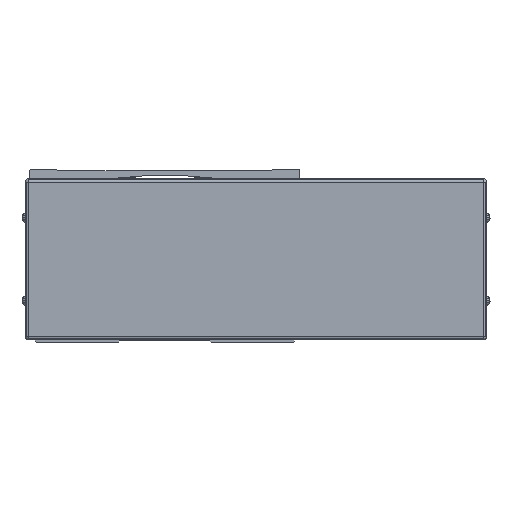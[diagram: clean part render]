
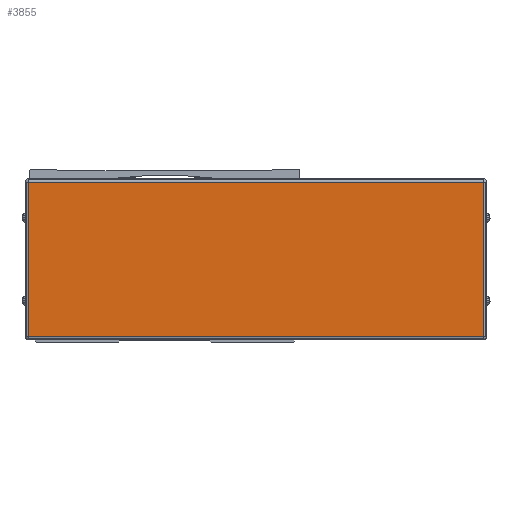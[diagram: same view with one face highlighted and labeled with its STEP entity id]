
A CAD part, front view. The second image highlights one B-rep face of the part: STEP entity #3855.
In plain terms, the highlighted planar face has unit normal (0, -1, 0).
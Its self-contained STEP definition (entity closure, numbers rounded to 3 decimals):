
#3855=ADVANCED_FACE('',(#8716),#8717,.T.);
#8716=FACE_OUTER_BOUND('',#15835,.T.);
#8717=PLANE('',#15836);
#15835=EDGE_LOOP('',(#28252,#28253,#28254,#28255));
#15836=AXIS2_PLACEMENT_3D('',#28256,#28257,#28258);
#28252=ORIENTED_EDGE('',*,*,#42086,.F.);
#28253=ORIENTED_EDGE('',*,*,#41478,.F.);
#28254=ORIENTED_EDGE('',*,*,#42087,.F.);
#28255=ORIENTED_EDGE('',*,*,#39945,.F.);
#28256=CARTESIAN_POINT('',(-545.,227.222,-2.));
#28257=DIRECTION('',(0.,-1.0,0.));
#28258=DIRECTION('',(1.0,0.,0.));
#39945=EDGE_CURVE('',#48566,#48568,#48569,.T.);
#41478=EDGE_CURVE('',#45738,#50893,#50894,.T.);
#42086=EDGE_CURVE('',#50893,#48566,#51746,.T.);
#42087=EDGE_CURVE('',#48568,#45738,#51747,.T.);
#45738=VERTEX_POINT('',#56592);
#48566=VERTEX_POINT('',#60755);
#48568=VERTEX_POINT('',#60757);
#48569=LINE('',#60758,#60759);
#50893=VERTEX_POINT('',#64121);
#50894=LINE('',#64122,#64123);
#51746=LINE('',#65579,#65580);
#51747=LINE('',#65581,#65582);
#56592=CARTESIAN_POINT('',(-682.1,227.222,-48.5));
#60755=CARTESIAN_POINT('',(-407.9,227.222,44.5));
#60757=CARTESIAN_POINT('',(-407.9,227.222,-48.5));
#60758=CARTESIAN_POINT('',(-407.9,227.222,-2.));
#60759=VECTOR('',#72523,10.0);
#64121=CARTESIAN_POINT('',(-682.1,227.222,44.5));
#64122=CARTESIAN_POINT('',(-682.1,227.222,-2.));
#64123=VECTOR('',#74506,10.0);
#65579=CARTESIAN_POINT('',(-545.,227.222,44.5));
#65580=VECTOR('',#75177,10.0);
#65581=CARTESIAN_POINT('',(-545.,227.222,-48.5));
#65582=VECTOR('',#75178,10.0);
#72523=DIRECTION('',(0.,0.,-1.0));
#74506=DIRECTION('',(0.,0.,1.0));
#75177=DIRECTION('',(1.0,0.,0.));
#75178=DIRECTION('',(-1.0,0.,0.));
